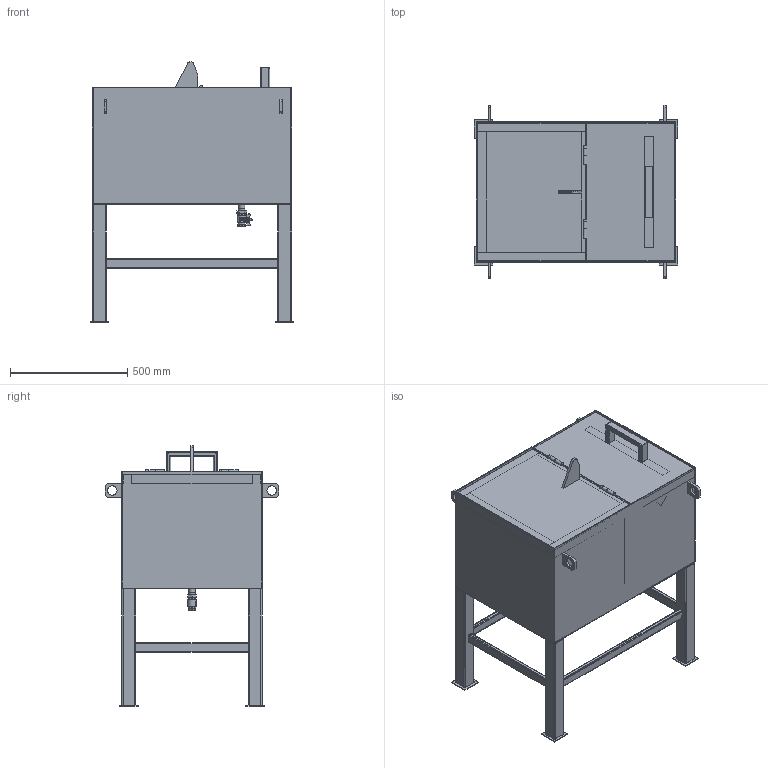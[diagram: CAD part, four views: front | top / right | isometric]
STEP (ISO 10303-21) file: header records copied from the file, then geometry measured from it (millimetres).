
FILE_DESCRIPTION(('STEP AP203'), '1');
FILE_NAME('ÑÌ.Â.00.000 ÑÁ Âàííà çàêàëî÷íàÿ', '', ('UNSPECIFIED'), ('UNSPECIFIED'), 'C3D Converter', 'C3D Toolkit', '');
FILE_SCHEMA(('CONFIG_CONTROL_DESIGN'));
Length unit declared in the file: millimetre
Products named in the file (42): СМ.В.00.000 СБ; СМ.В.01.000; СМ.В.01.001; СМ.В.01.003; СМ.В.01.004; СМ.В.01.010; корпус 3_4; Кран G1_2 шар, бабочк\; СМ.В.01.015; СМ.В.01.016; СМ.В.01.018; СМ.В.01.007; СМ.В.01.008; СМ.В.01.005; СМ.В.01.006; СМ.В.01.011; СМ.В.01.019; СМ.В.01.021; СМ.В.01.014; СМ.В.01.012; СМ.В.01.020; СМ.В.01.013; СМ.В.02.000; СМ.В.02.001; СМ.В.02.003; СМ.В.02.002
Assembly tree (49 placements, depth 4):
  СМ.В.00.000 СБ
    СМ.В.01.000
      СМ.В.01.001
      СМ.В.01.003  x2
      СМ.В.01.004
      СМ.В.01.010
      (unnamed)
        корпус 3_4
        Кран G1_2 шар, бабочк\
      (unnamed)
      (unnamed)  x2
        (unnamed)
        (unnamed)
      СМ.В.01.015  x4
      СМ.В.01.016  x4
      СМ.В.01.018
      СМ.В.01.007
      СМ.В.01.007
      СМ.В.01.008
      СМ.В.01.008
      СМ.В.01.008
      СМ.В.01.005
      СМ.В.01.006
      СМ.В.01.011
      СМ.В.01.019
      СМ.В.01.021
      СМ.В.01.019
      СМ.В.01.014
      СМ.В.01.012
      СМ.В.01.014
      СМ.В.01.012
      СМ.В.01.020
      СМ.В.01.020
      СМ.В.01.020
      СМ.В.01.020
      СМ.В.01.013
      СМ.В.01.013
    СМ.В.02.000
      СМ.В.02.001
      СМ.В.02.003
      СМ.В.02.003
      СМ.В.02.002
Bounding box: 870 x 740 x 1110 mm (x, y, z)
Volume: 12565201.5 mm3; surface area: 8371363.9 mm2
Topology: 46 solids, 46 shells, 1008 faces, 2567 edges, 1672 vertices
Faces by surface type: plane 629, cylinder 232, bspline 118, cone 17, sphere 8, torus 4
Full cylindrical faces by diameter (mm): 8 x1, 10 x4, 16 x4, 19 x2, 20 x2, 24.117 x2, 24.627 x1, 25 x5, 26.441 x1, 27 x2, 31 x1, 37 x1, 40 x4
Entity records: 54811 total; most frequent: CARTESIAN_POINT 28401, ORIENTED_EDGE 4560, DIRECTION 4007, EDGE_CURVE 2280, VERTEX_POINT 1507, LINE 1469, VECTOR 1469, AXIS2_PLACEMENT_3D 1269
